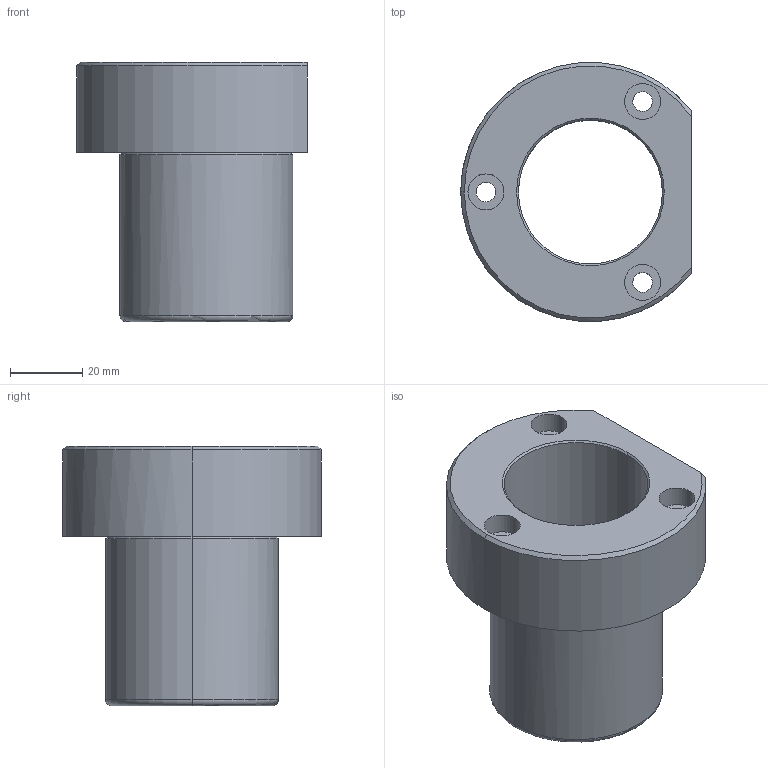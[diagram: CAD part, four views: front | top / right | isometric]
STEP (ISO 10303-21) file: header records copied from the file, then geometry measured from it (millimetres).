
FILE_DESCRIPTION(('CATIA V5 STEP Exchange'),'2;1');
FILE_NAME('C:\Users\Utente\Desktop\IO LAVORO\3D X SITO CF\X SITO\737\737-32.stp','2021-01-17T17:03:10+00:00',('none'),('none'),'CATIA Version 5 Release 20 GA (IN-10)','CATIA V5 STEP AP203','none');
FILE_SCHEMA(('CONFIG_CONTROL_DESIGN'));
Length unit declared in the file: millimetre
Products named in the file (1): 737-32
Bounding box: 64 x 71.82 x 72 mm (x, y, z)
Volume: 87129.1 mm3; surface area: 28186.7 mm2
Topology: 1 solids, 1 shells, 37 faces, 82 edges, 51 vertices
Faces by surface type: cylinder 18, plane 7, cone 6, torus 6
Entity records: 1250 total; most frequent: CARTESIAN_POINT 405, ORIENTED_EDGE 164, DIRECTION 141, EDGE_CURVE 82, AXIS2_PLACEMENT_3D 79, VERTEX_POINT 51, EDGE_LOOP 49, CIRCLE 41
